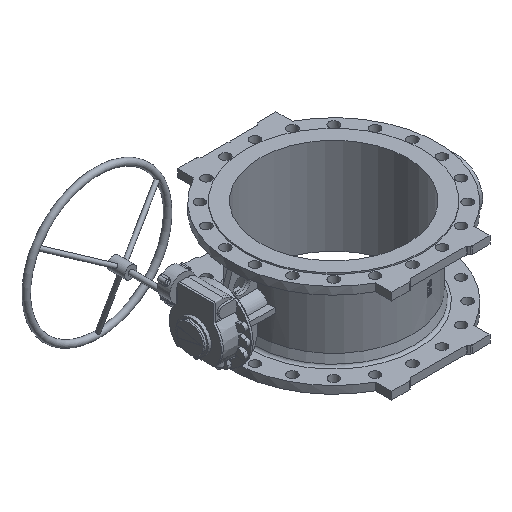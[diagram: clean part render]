
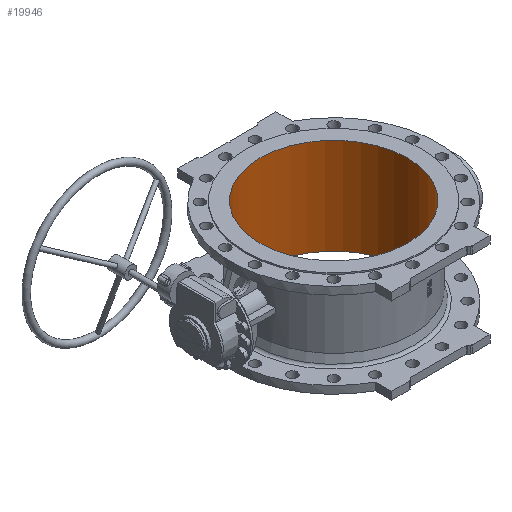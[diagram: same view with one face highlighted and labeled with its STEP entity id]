
A CAD part, isometric view. The second image highlights one B-rep face of the part: STEP entity #19946.
In plain terms, the highlighted cylindrical face has radius 300 mm (diameter 600 mm), a full revolution.
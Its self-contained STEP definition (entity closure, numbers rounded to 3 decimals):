
#5699 = CIRCLE ( 'NONE', #10080, 300. ) ;
#5725 = CIRCLE ( 'NONE', #10085, 300. ) ;
#8112 = EDGE_CURVE ( 'NONE', #15462, #15462, #5699, .T. ) ;
#8129 = EDGE_CURVE ( 'NONE', #15465, #15465, #5725, .T. ) ;
#9168 = ORIENTED_EDGE ( 'NONE', *, *, #8129, .F. ) ;
#9169 = ORIENTED_EDGE ( 'NONE', *, *, #8112, .T. ) ;
#9364 = EDGE_LOOP ( 'NONE', ( #9168 ) ) ;
#9365 = EDGE_LOOP ( 'NONE', ( #9169 ) ) ;
#9599 = DIRECTION ( 'NONE',  ( -1., 0., 0. ) ) ;
#9600 = DIRECTION ( 'NONE',  ( 0., 0., 1. ) ) ;
#9602 = CARTESIAN_POINT ( 'NONE',  ( 0., 0., -195. ) ) ;
#9647 = DIRECTION ( 'NONE',  ( -1., 0., 0. ) ) ;
#9648 = DIRECTION ( 'NONE',  ( 0., 0., 1. ) ) ;
#9649 = CARTESIAN_POINT ( 'NONE',  ( 0., 0., 195. ) ) ;
#10080 = AXIS2_PLACEMENT_3D ( 'NONE', #9649, #9648, #9647 ) ;
#10085 = AXIS2_PLACEMENT_3D ( 'NONE', #9602, #9600, #9599 ) ;
#15118 = AXIS2_PLACEMENT_3D ( 'NONE', #15698, #15699, #15697 ) ;
#15319 = FACE_OUTER_BOUND ( 'NONE', #9365, .T. ) ;
#15320 = FACE_OUTER_BOUND ( 'NONE', #9364, .T. ) ;
#15325 = CYLINDRICAL_SURFACE ( 'NONE', #15118, 300. ) ;
#15462 = VERTEX_POINT ( 'NONE', #17506 ) ;
#15465 = VERTEX_POINT ( 'NONE', #17509 ) ;
#15697 = DIRECTION ( 'NONE',  ( -1., 0., 0. ) ) ;
#15698 = CARTESIAN_POINT ( 'NONE',  ( 0., 0., 118.545 ) ) ;
#15699 = DIRECTION ( 'NONE',  ( 0., 0., 1. ) ) ;
#17506 = CARTESIAN_POINT ( 'NONE',  ( -300., 0., 195. ) ) ;
#17509 = CARTESIAN_POINT ( 'NONE',  ( -300., 0., -195. ) ) ;
#19946 = ADVANCED_FACE ( 'NONE', ( #15320, #15319 ), #15325, .F. ) ;
